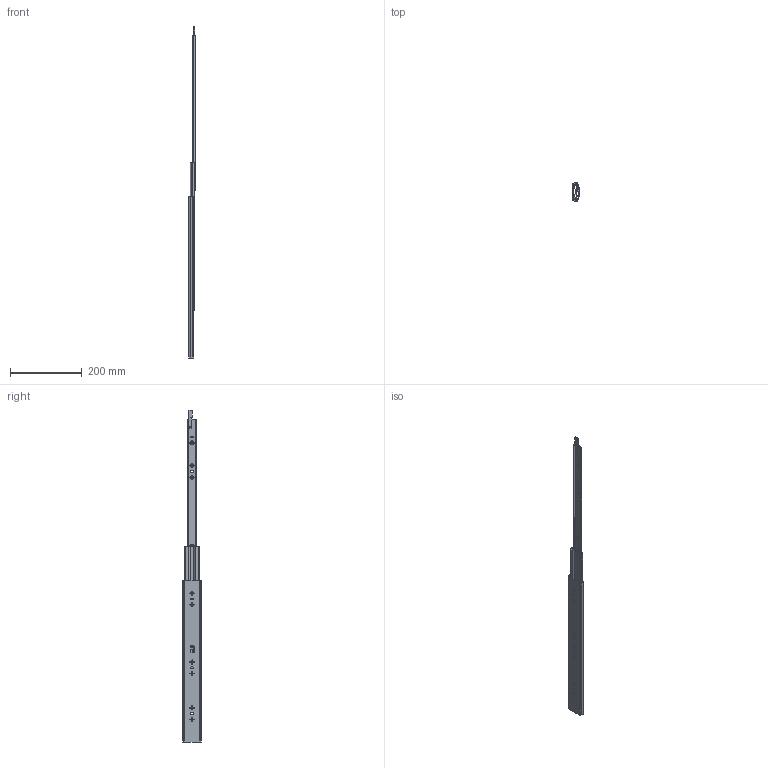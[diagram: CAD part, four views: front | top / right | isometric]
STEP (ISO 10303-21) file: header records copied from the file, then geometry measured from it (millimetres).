
FILE_DESCRIPTION (( 'STEP AP214' ), '1' );
FILE_NAME ('DSCHMD450MML-OPEN.STEP', '2018-11-27T07:47:32', ( '' ), ( '' ), 'SwSTEP 2.0', 'SolidWorks 2017', '' );
FILE_SCHEMA (( 'AUTOMOTIVE_DESIGN' ));
Length unit declared in the file: millimetre
Products named in the file (5): DSCHMDL-4; DSCHMDL-1_450; DSCHMDL-3_450; DSCHMDL-2_450; DSCHMD450MML-OPEN
Assembly tree (4 placements, depth 2):
  DSCHMD450MML-OPEN
    DSCHMDL-3_450
    DSCHMDL-2_450
    DSCHMDL-1_450
    DSCHMDL-4
Bounding box: 18.7 x 53 x 926.1 mm (x, y, z)
Volume: 149550.3 mm3; surface area: 156736.1 mm2
Topology: 4 solids, 4 shells, 994 faces, 2744 edges, 1820 vertices
Faces by surface type: plane 540, bspline 237, cylinder 165, cone 44, torus 4, sphere 4
Entity records: 33700 total; most frequent: CARTESIAN_POINT 9254, ORIENTED_EDGE 5480, DIRECTION 4086, EDGE_CURVE 2740, VERTEX_POINT 1820, LINE 1798, VECTOR 1798, AXIS2_PLACEMENT_3D 1144
